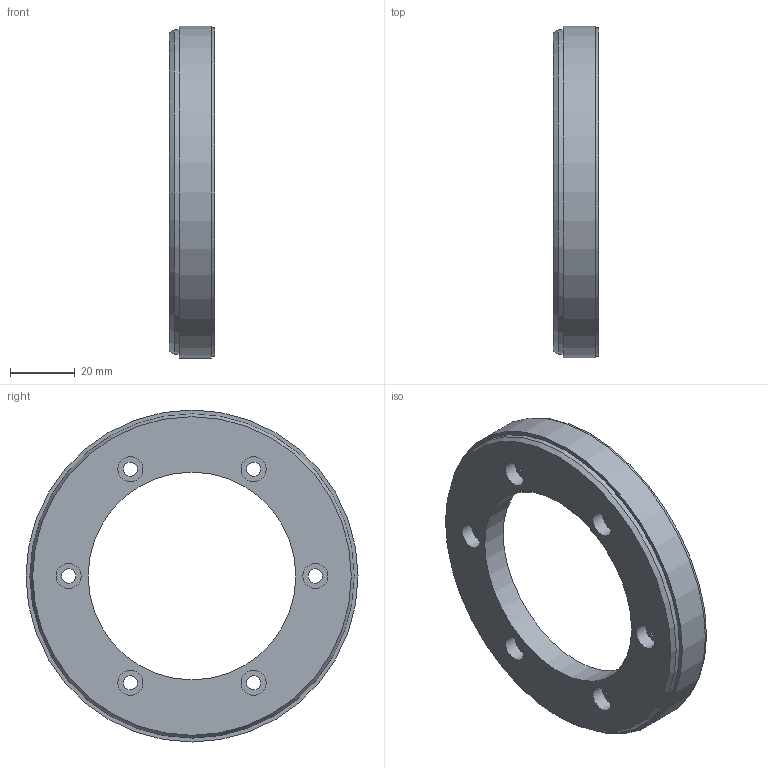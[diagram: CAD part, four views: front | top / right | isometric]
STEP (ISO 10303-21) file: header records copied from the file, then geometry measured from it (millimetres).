
FILE_DESCRIPTION((''),'2;1');
FILE_NAME('K:\Daten\12\15 POSIMAG\05 PMIR5\121505_PMIR5-50-64-O-M-83_012_-Kunde.stp','2008-11-06T16:16:22',('kamp'),(''),'Autodesk Inventor 2008','Autodesk Inventor 2008','');
FILE_SCHEMA(('AUTOMOTIVE_DESIGN { 1 0 10303 214 1 1 1 1 }'));
Length unit declared in the file: millimetre
Products named in the file (1): 121505_PMIR5-50-64-O-M-83_012_-Kunde
Bounding box: 14 x 102.3 x 102.3 mm (x, y, z)
Volume: 53884 mm3; surface area: 18179.8 mm2
Topology: 1 solids, 1 shells, 29 faces, 59 edges, 41 vertices
Faces by surface type: bspline 18, plane 5, cylinder 5, cone 1
Full cylindrical faces by diameter (mm): 64 x1, 83 x1, 99.9 x1, 101.3 x1, 102.3 x1
Entity records: 854 total; most frequent: CARTESIAN_POINT 322, DIRECTION 94, ORIENTED_EDGE 70, EDGE_LOOP 70, AXIS2_PLACEMENT_3D 47, FACE_BOUND 41, VERTEX_POINT 35, CIRCLE 35
